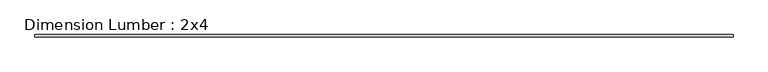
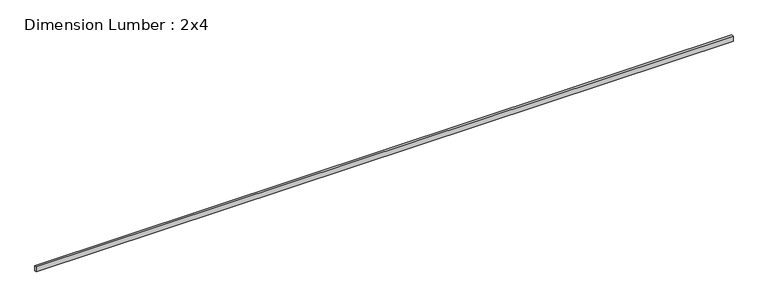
"""IFC4 building model written with IfcOpenShell, lengths in millimetres: beam geometry, Dimension Lumber : 2x4."""

from ifc_helpers import new_model, si_unit, frame, origin, place, context, project, spatial, polyline, outline, extrude, source, transform, mapped, element, save


def dimension_lumber_2x4_d2823b90(model_context):
    return source(origin(), model_context, "Body", "SweptSolid", [
        extrude(outline(polyline([(6013.45, 19.05), (6013.45, -19.05), (-6013.45, -19.05), (-6013.45, 19.05), (6013.45, 19.05)])), frame((0.0, 0.0, -44.45), z_axis=(0.0, 0.0, 1.0), x_axis=(1.0, 0.0, 0.0)), (0.0, 0.0, 1.0), 88.9),
    ])


if __name__ == "__main__":
    model = new_model("IFC4")
    model_context = context("Model", 3, world=origin())
    ifc_project = project(units=[si_unit("LENGTHUNIT", "METRE", prefix="MILLI")], contexts=[model_context])
    site = spatial("IfcSite", under=ifc_project)
    building = spatial("IfcBuilding", under=site)
    placement = place(None, origin())
    dimension_lumber_2x4_shape = dimension_lumber_2x4_d2823b90(model_context)
    element("IfcBeam", 1, ObjectType="Dimension Lumber : 2x4", at=placement, inside=building, context=model_context, shape_type="MappedRepresentation", body=[
        mapped(dimension_lumber_2x4_shape, transform((0.0, 0.0, 0.0), x_axis=(1.0, 0.0, 0.0), y_axis=(0.0, 1.0, 0.0), z_axis=(0.0, 0.0, 1.0))),
    ])
    save(model, "model.ifc")
